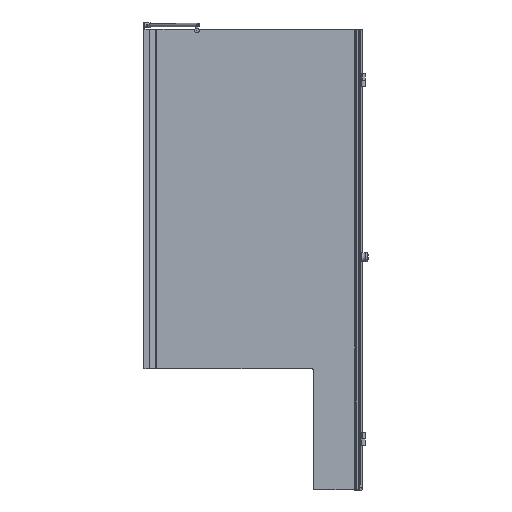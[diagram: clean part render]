
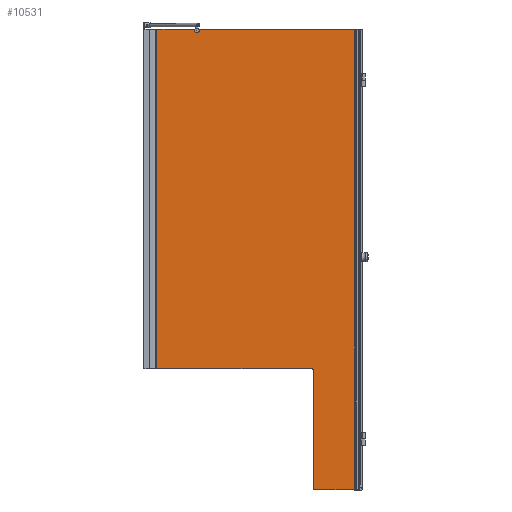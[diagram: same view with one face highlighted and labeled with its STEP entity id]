
A CAD part, front view. The second image highlights one B-rep face of the part: STEP entity #10531.
In plain terms, the highlighted planar face has unit normal (0, -1, 0).
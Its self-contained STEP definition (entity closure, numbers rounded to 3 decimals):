
#362=LINE($,#15778,#1460);
#397=LINE($,#15891,#1495);
#489=LINE($,#16119,#1587);
#495=LINE($,#16134,#1593);
#496=LINE($,#16138,#1594);
#497=LINE($,#16140,#1595);
#498=LINE($,#16144,#1596);
#499=LINE($,#16145,#1597);
#1460=VECTOR($,#12652,641.666);
#1495=VECTOR($,#12733,160.474);
#1587=VECTOR($,#12935,1400.);
#1593=VECTOR($,#12953,641.);
#1594=VECTOR($,#12956,490.);
#1595=VECTOR($,#12957,168.419);
#1596=VECTOR($,#12960,1.419);
#1597=VECTOR($,#12961,1898.);
#2685=FACE_OUTER_BOUND($,#3318,.T.);
#3318=EDGE_LOOP($,(#7409,#7410,#7411,#7412,#7413,#7414,#7415,#7416,#7417,
#7418,#7419));
#3812=CIRCLE($,#11172,10.);
#3868=CIRCLE($,#11281,10.);
#3869=CIRCLE($,#11282,2.);
#4270=VERTEX_POINT($,#15551);
#4272=VERTEX_POINT($,#15555);
#4298=VERTEX_POINT($,#15777);
#4353=VERTEX_POINT($,#15889);
#4434=VERTEX_POINT($,#16117);
#4437=VERTEX_POINT($,#16133);
#4438=VERTEX_POINT($,#16135);
#4439=VERTEX_POINT($,#16137);
#4440=VERTEX_POINT($,#16139);
#4441=VERTEX_POINT($,#16141);
#4442=VERTEX_POINT($,#16143);
#5290=EDGE_CURVE($,#4270,#4272,#3812,.T.);
#5323=EDGE_CURVE($,#4298,#4270,#362,.T.);
#5380=EDGE_CURVE($,#4272,#4353,#397,.T.);
#5494=EDGE_CURVE($,#4353,#4434,#489,.T.);
#5501=EDGE_CURVE($,#4434,#4437,#495,.T.);
#5502=EDGE_CURVE($,#4438,#4437,#3868,.T.);
#5503=EDGE_CURVE($,#4438,#4439,#496,.T.);
#5504=EDGE_CURVE($,#4440,#4439,#497,.T.);
#5505=EDGE_CURVE($,#4440,#4441,#3869,.T.);
#5506=EDGE_CURVE($,#4441,#4442,#498,.T.);
#5507=EDGE_CURVE($,#4442,#4298,#499,.T.);
#7409=ORIENTED_EDGE($,*,*,#5290,.T.);
#7410=ORIENTED_EDGE($,*,*,#5380,.T.);
#7411=ORIENTED_EDGE($,*,*,#5494,.T.);
#7412=ORIENTED_EDGE($,*,*,#5501,.T.);
#7413=ORIENTED_EDGE($,*,*,#5502,.F.);
#7414=ORIENTED_EDGE($,*,*,#5503,.T.);
#7415=ORIENTED_EDGE($,*,*,#5504,.F.);
#7416=ORIENTED_EDGE($,*,*,#5505,.T.);
#7417=ORIENTED_EDGE($,*,*,#5506,.T.);
#7418=ORIENTED_EDGE($,*,*,#5507,.T.);
#7419=ORIENTED_EDGE($,*,*,#5323,.T.);
#9433=PLANE($,#11280);
#10531=ADVANCED_FACE($,(#2685),#9433,.T.);
#11172=AXIS2_PLACEMENT_3D($,#15557,#12588,#12589);
#11280=AXIS2_PLACEMENT_3D($,#16132,#12951,#12952);
#11281=AXIS2_PLACEMENT_3D($,#16136,#12954,#12955);
#11282=AXIS2_PLACEMENT_3D($,#16142,#12958,#12959);
#12588=DIRECTION('center_axis',(0.,1.,0.));
#12589=DIRECTION('ref_axis',(-0.597,0.,
0.802));
#12652=DIRECTION($,(-1.,0.,0.));
#12733=DIRECTION($,(-1.,0.,0.));
#12935=DIRECTION($,(0.,0.,-1.));
#12951=DIRECTION('center_axis',(0.,-1.,0.));
#12952=DIRECTION('ref_axis',(-1.,0.,0.));
#12953=DIRECTION($,(1.,0.,0.));
#12954=DIRECTION('center_axis',(0.,-1.,0.));
#12955=DIRECTION('ref_axis',(0.707,0.,0.707));
#12956=DIRECTION($,(0.,0.,-1.));
#12957=DIRECTION($,(-1.,0.,0.));
#12958=DIRECTION('center_axis',(0.,1.,0.));
#12959=DIRECTION('ref_axis',(-1.,0.,0.));
#12960=DIRECTION($,(-1.,0.,0.));
#12961=DIRECTION($,(0.,0.,1.));
#15551=CARTESIAN_POINT('',(594.353,-54.044,1385.944));
#15555=CARTESIAN_POINT('',(576.493,-54.044,1385.944));
#15557=CARTESIAN_POINT('Origin',(585.423,-54.044,1381.444));
#15777=CARTESIAN_POINT('',(1236.019,-54.044,1385.944));
#15778=CARTESIAN_POINT($,(1241.019,-54.044,1385.944));
#15889=CARTESIAN_POINT('',(416.019,-54.044,1385.944));
#15891=CARTESIAN_POINT($,(1241.019,-54.044,1385.944));
#16117=CARTESIAN_POINT('',(416.019,-54.044,-14.056));
#16119=CARTESIAN_POINT($,(416.019,-54.044,685.944));
#16132=CARTESIAN_POINT('Origin',(1241.019,-54.044,1385.944));
#16133=CARTESIAN_POINT('',(1057.019,-54.044,-14.056));
#16134=CARTESIAN_POINT($,(1154.019,-54.044,-14.056));
#16135=CARTESIAN_POINT('',(1067.019,-54.044,-24.056));
#16136=CARTESIAN_POINT('Origin',(1057.019,-54.044,-24.056));
#16137=CARTESIAN_POINT('',(1067.019,-54.044,-514.056));
#16138=CARTESIAN_POINT($,(1067.019,-54.044,435.944));
#16139=CARTESIAN_POINT('',(1235.438,-54.044,-514.056));
#16140=CARTESIAN_POINT($,(1241.019,-54.044,-514.056));
#16141=CARTESIAN_POINT('',(1237.438,-54.044,-512.056));
#16142=CARTESIAN_POINT('Origin',(1237.438,-54.044,-514.056));
#16143=CARTESIAN_POINT('',(1236.019,-54.044,-512.056));
#16144=CARTESIAN_POINT($,(1238.902,-54.044,-512.056));
#16145=CARTESIAN_POINT($,(1236.019,-54.044,436.944));
